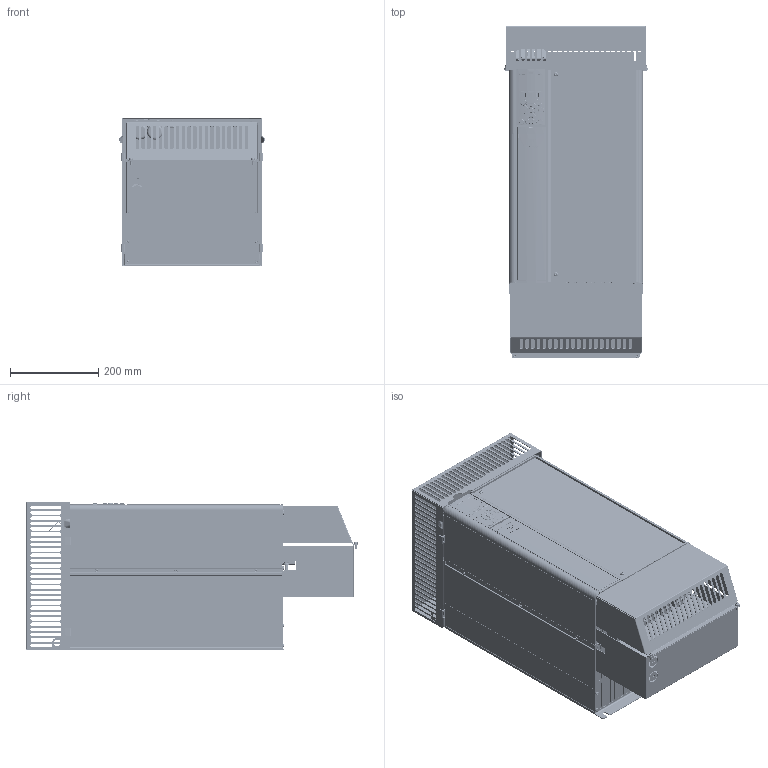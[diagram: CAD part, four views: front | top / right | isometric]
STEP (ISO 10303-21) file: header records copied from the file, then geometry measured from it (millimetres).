
FILE_DESCRIPTION((''),'2;1');
FILE_NAME('DANFOSS-FC300C3NEMAKIT-OPT-199','2008-10-23T',('Abhilash.Paramesh'),('Danfoss Drives A/S'),'PRO/ENGINEER BY PARAMETRIC TECHNOLOGY CORPORATION, 2007160','PRO/ENGINEER BY PARAMETRIC TECHNOLOGY CORPORATION, 2007160','');
FILE_SCHEMA(('CONFIG_CONTROL_DESIGN', 'GEOMETRIC_VALIDATION_PROPERTIES_MIM'));
Products named in the file (1): DANFOSS-FC300C3NEMAKIT-OPT-199
Bounding box: 328.72 x 751.65 x 337 mm (x, y, z)
Volume: 45736948.2 mm3; surface area: 2809629.7 mm2
Topology: 2 solids, 40 shells, 7967 faces, 21967 edges, 14045 vertices
Faces by surface type: plane 4504, cylinder 2208, bspline 722, extrusion 175, torus 162, cone 110, sphere 86
Entity records: 484420 total; most frequent: CARTESIAN_POINT 174200, ORIENTED_EDGE 43734, DIRECTION 36559, PRESENTATION_STYLE_ASSIGNMENT 26393, STYLED_ITEM 22047, CURVE_STYLE 22041, EDGE_CURVE 21867, VERTEX_POINT 14045
